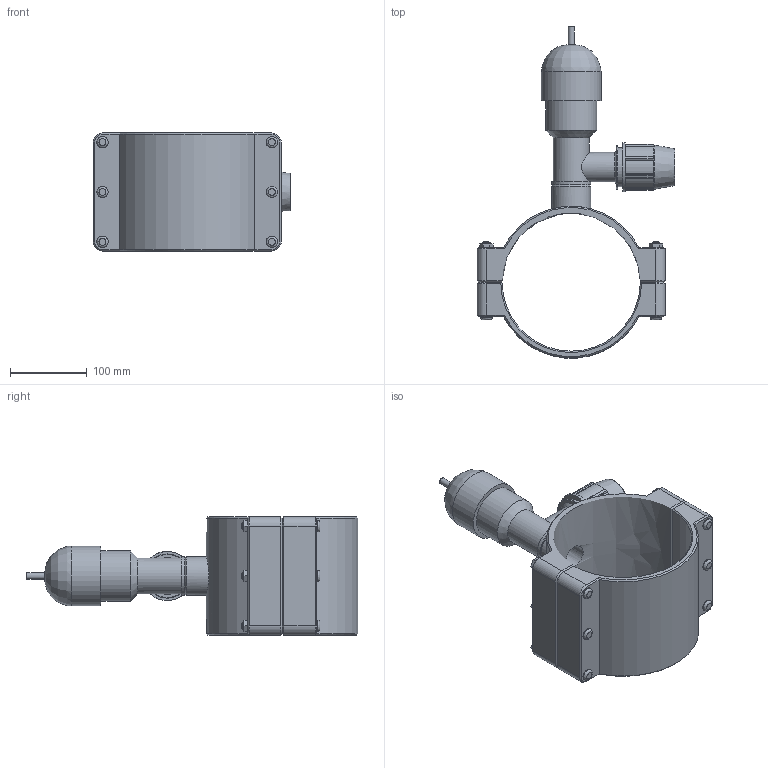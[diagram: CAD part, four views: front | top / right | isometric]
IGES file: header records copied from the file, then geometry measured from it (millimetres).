
Global section: file name: 186800180032.ipt; native system: Autodesk Inventor 2015; preprocessor: unknown; author: KIM; date: 20170618.094040; units: millimetre
Bounding box: 257.5 x 432.65 x 154 mm (x, y, z)
Volume: 2197660.9 mm3; surface area: 335917.6 mm2
Topology: 1 solids, 1 shells, 252 faces, 628 edges, 408 vertices
Faces by surface type: plane 151, cylinder 49, cone 31, revolution 21
Full cylindrical faces by diameter (mm): 8.19 x1, 10 x6, 15 x12, 38.4 x1, 38.952 x1, 46.742 x1, 50.638 x2, 51.2 x1, 57.6 x1, 64 x1, 66.218 x1, 77.904 x1
